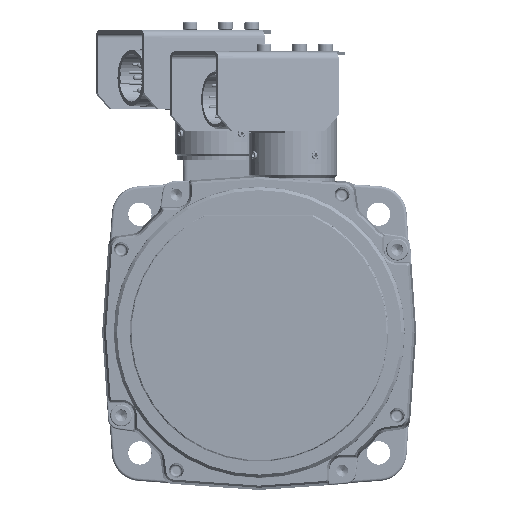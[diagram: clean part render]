
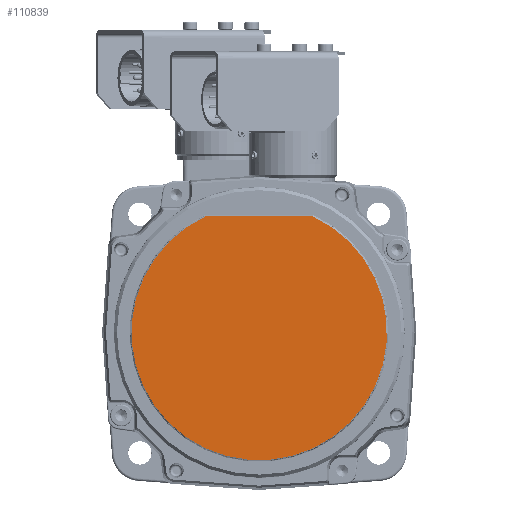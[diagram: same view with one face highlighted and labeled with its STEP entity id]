
A CAD part, top view. The second image highlights one B-rep face of the part: STEP entity #110839.
In plain terms, the highlighted planar face has unit normal (0, 0, 1).
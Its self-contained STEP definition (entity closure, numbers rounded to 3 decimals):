
#103411=CARTESIAN_POINT('',(0.,0.,63.9));
#103412=DIRECTION('',(0.,0.,-1.));
#103413=DIRECTION('',(0.418,0.908,0.));
#103414=AXIS2_PLACEMENT_3D('',#103411,#103412,#103413);
#103423=DIRECTION('',(-1.,0.,0.));
#103424=VECTOR('',#103423,41.125);
#103425=CARTESIAN_POINT('',(20.562,44.7,63.9));
#103426=LINE('',#103425,#103424);
#104087=CARTESIAN_POINT('',(20.562,44.7,63.9));
#104088=CARTESIAN_POINT('',(-20.562,44.7,63.9));
#104089=VERTEX_POINT('',#104087);
#104090=VERTEX_POINT('',#104088);
#110830=CARTESIAN_POINT('',(0.,0.,63.9));
#110831=DIRECTION('',(0.,0.,1.));
#110832=DIRECTION('',(1.,0.,0.));
#110833=AXIS2_PLACEMENT_3D('',#110830,#110831,#110832);
#110834=PLANE('',#110833);
#110835=ORIENTED_EDGE('',*,*,#110809,.T.);
#110836=ORIENTED_EDGE('',*,*,#110821,.F.);
#110837=EDGE_LOOP('',(#110835,#110836));
#110838=FACE_OUTER_BOUND('',#110837,.F.);
#110839=ADVANCED_FACE('',(#110838),#110834,.T.);
#103415=CIRCLE('',#103414,49.203);
#110809=EDGE_CURVE('',#104089,#104090,#103415,.T.);
#110821=EDGE_CURVE('',#104089,#104090,#103426,.T.);
